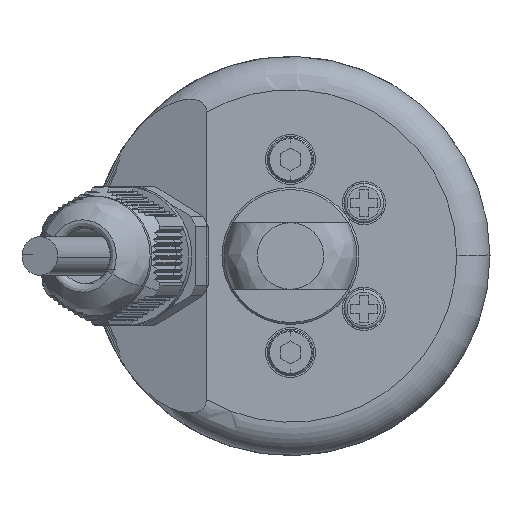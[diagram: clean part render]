
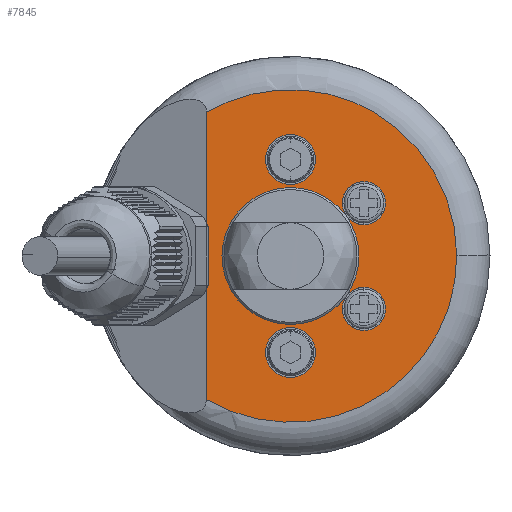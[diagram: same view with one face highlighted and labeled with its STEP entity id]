
A CAD part, left-side view. The second image highlights one B-rep face of the part: STEP entity #7845.
In plain terms, the highlighted planar face has unit normal (-1, 0, 0).
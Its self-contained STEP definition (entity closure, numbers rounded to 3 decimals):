
#1228=DIRECTION('',(0.,0.,-1.));
#1229=VECTOR('',#1228,16.615);
#1230=CARTESIAN_POINT('',(-643.,12.622,-4.965));
#1231=LINE('',#1230,#1229);
#1311=DIRECTION('',(0.,0.,-1.));
#1312=VECTOR('',#1311,16.615);
#1313=CARTESIAN_POINT('',(-643.,12.622,21.58));
#1314=LINE('',#1313,#1312);
#1354=CARTESIAN_POINT('',(-643.,0.,14.5));
#1355=DIRECTION('',(-1.,0.,0.));
#1356=DIRECTION('',(0.,0.,-1.));
#1357=AXIS2_PLACEMENT_3D('',#1354,#1355,#1356);
#1359=CARTESIAN_POINT('',(-643.,0.,14.5));
#1360=DIRECTION('',(-1.,0.,0.));
#1361=DIRECTION('',(0.,0.,1.));
#1362=AXIS2_PLACEMENT_3D('',#1359,#1360,#1361);
#1364=CARTESIAN_POINT('',(-643.,0.,-14.5));
#1365=DIRECTION('',(-1.,0.,0.));
#1366=DIRECTION('',(0.,0.,-1.));
#1367=AXIS2_PLACEMENT_3D('',#1364,#1365,#1366);
#1369=CARTESIAN_POINT('',(-643.,0.,-14.5));
#1370=DIRECTION('',(-1.,0.,0.));
#1371=DIRECTION('',(0.,0.,1.));
#1372=AXIS2_PLACEMENT_3D('',#1369,#1370,#1371);
#1374=CARTESIAN_POINT('',(-643.,0.,0.));
#1375=DIRECTION('',(-1.,0.,0.));
#1376=DIRECTION('',(0.,0.,1.));
#1377=AXIS2_PLACEMENT_3D('',#1374,#1375,#1376);
#1379=CARTESIAN_POINT('',(-643.,0.,0.));
#1380=DIRECTION('',(-1.,0.,0.));
#1381=DIRECTION('',(0.,1.,0.));
#1382=AXIS2_PLACEMENT_3D('',#1379,#1380,#1381);
#1384=CARTESIAN_POINT('',(-643.,0.,0.));
#1385=DIRECTION('',(-1.,0.,0.));
#1386=DIRECTION('',(0.,0.,-1.));
#1387=AXIS2_PLACEMENT_3D('',#1384,#1385,#1386);
#1389=CARTESIAN_POINT('',(-643.,-11.04,-7.95));
#1390=DIRECTION('',(-1.,0.,0.));
#1391=DIRECTION('',(0.,0.811,0.584));
#1392=AXIS2_PLACEMENT_3D('',#1389,#1390,#1391);
#1394=CARTESIAN_POINT('',(-643.,-11.04,-7.95));
#1395=DIRECTION('',(-1.,0.,0.));
#1396=DIRECTION('',(0.,0.,-1.));
#1397=AXIS2_PLACEMENT_3D('',#1394,#1395,#1396);
#1399=CARTESIAN_POINT('',(-643.,-11.04,-7.95));
#1400=DIRECTION('',(-1.,0.,0.));
#1401=DIRECTION('',(0.,0.,1.));
#1402=AXIS2_PLACEMENT_3D('',#1399,#1400,#1401);
#1404=CARTESIAN_POINT('',(-643.,0.,0.));
#1405=DIRECTION('',(-1.,0.,0.));
#1406=DIRECTION('',(0.,-0.811,-0.584));
#1407=AXIS2_PLACEMENT_3D('',#1404,#1405,#1406);
#1409=CARTESIAN_POINT('',(-643.,0.,0.));
#1410=DIRECTION('',(-1.,0.,0.));
#1411=DIRECTION('',(0.,-1.,0.));
#1412=AXIS2_PLACEMENT_3D('',#1409,#1410,#1411);
#1414=CARTESIAN_POINT('',(-643.,-11.04,7.95));
#1415=DIRECTION('',(-1.,0.,0.));
#1416=DIRECTION('',(0.,0.811,-0.584));
#1417=AXIS2_PLACEMENT_3D('',#1414,#1415,#1416);
#1419=CARTESIAN_POINT('',(-643.,-11.04,7.95));
#1420=DIRECTION('',(-1.,0.,0.));
#1421=DIRECTION('',(0.,0.,-1.));
#1422=AXIS2_PLACEMENT_3D('',#1419,#1420,#1421);
#1424=CARTESIAN_POINT('',(-643.,-11.04,7.95));
#1425=DIRECTION('',(-1.,0.,0.));
#1426=DIRECTION('',(0.,0.,1.));
#1427=AXIS2_PLACEMENT_3D('',#1424,#1425,#1426);
#1429=CARTESIAN_POINT('',(-643.,0.,0.));
#1430=DIRECTION('',(-1.,0.,0.));
#1431=DIRECTION('',(0.,-0.811,0.584));
#1432=AXIS2_PLACEMENT_3D('',#1429,#1430,#1431);
#1434=CARTESIAN_POINT('',(-643.,0.,0.));
#1435=DIRECTION('',(1.,0.,0.));
#1436=DIRECTION('',(0.,0.505,0.863));
#1437=AXIS2_PLACEMENT_3D('',#1434,#1435,#1436);
#1439=CARTESIAN_POINT('',(-643.,0.,0.));
#1440=DIRECTION('',(1.,0.,0.));
#1441=DIRECTION('',(0.,-0.505,0.863));
#1442=AXIS2_PLACEMENT_3D('',#1439,#1440,#1441);
#1444=CARTESIAN_POINT('',(-643.,0.,0.));
#1445=DIRECTION('',(1.,0.,0.));
#1446=DIRECTION('',(0.,-1.,0.005));
#1447=AXIS2_PLACEMENT_3D('',#1444,#1445,#1446);
#1449=DIRECTION('',(0.,0.,1.));
#1450=VECTOR('',#1449,9.93);
#1451=CARTESIAN_POINT('',(-643.,12.622,-4.965));
#1452=LINE('',#1451,#1450);
#4893=CARTESIAN_POINT('',(-643.,0.,-18.25));
#4894=VERTEX_POINT('',#4893);
#4895=CARTESIAN_POINT('',(-643.,0.,-10.75));
#4896=VERTEX_POINT('',#4895);
#4897=CARTESIAN_POINT('',(-643.,-25.,0.127));
#4898=CARTESIAN_POINT('',(-643.,12.622,-21.58));
#4899=VERTEX_POINT('',#4897);
#4900=VERTEX_POINT('',#4898);
#4901=CARTESIAN_POINT('',(-643.,12.622,21.58));
#4902=CARTESIAN_POINT('',(-643.,-12.622,21.58));
#4903=VERTEX_POINT('',#4901);
#4904=VERTEX_POINT('',#4902);
#4905=CARTESIAN_POINT('',(-643.,0.,10.75));
#4906=CARTESIAN_POINT('',(-643.,0.,18.25));
#4907=VERTEX_POINT('',#4905);
#4908=VERTEX_POINT('',#4906);
#4909=CARTESIAN_POINT('',(-643.,0.,10.3));
#4910=CARTESIAN_POINT('',(-643.,10.3,0.));
#4911=VERTEX_POINT('',#4909);
#4912=VERTEX_POINT('',#4910);
#4913=CARTESIAN_POINT('',(-643.,0.,-10.3));
#4914=VERTEX_POINT('',#4913);
#4915=CARTESIAN_POINT('',(-643.,-11.04,4.7));
#4916=CARTESIAN_POINT('',(-643.,-11.04,11.2));
#4917=VERTEX_POINT('',#4915);
#4918=VERTEX_POINT('',#4916);
#4919=CARTESIAN_POINT('',(-643.,-11.04,-11.2));
#4920=CARTESIAN_POINT('',(-643.,-11.04,-4.7));
#4921=VERTEX_POINT('',#4919);
#4922=VERTEX_POINT('',#4920);
#4978=CARTESIAN_POINT('',(-643.,-10.3,0.));
#4980=VERTEX_POINT('',#4978);
#6035=CARTESIAN_POINT('',(-643.,12.622,-4.965));
#6036=CARTESIAN_POINT('',(-643.,12.622,4.965));
#6037=VERTEX_POINT('',#6035);
#6038=VERTEX_POINT('',#6036);
#6080=CARTESIAN_POINT('',(-643.,-8.403,-6.051));
#6081=VERTEX_POINT('',#6080);
#6082=CARTESIAN_POINT('',(-643.,-8.403,6.051));
#6083=VERTEX_POINT('',#6082);
#7791=CARTESIAN_POINT('',(-643.,-6.189,0.));
#7792=DIRECTION('',(1.,0.,0.));
#7793=DIRECTION('',(0.,0.,1.));
#7794=AXIS2_PLACEMENT_3D('',#7791,#7792,#7793);
#7795=PLANE('',#7794);
#7796=ORIENTED_EDGE('',*,*,#7700,.F.);
#7798=ORIENTED_EDGE('',*,*,#7797,.T.);
#7800=ORIENTED_EDGE('',*,*,#7799,.T.);
#7802=ORIENTED_EDGE('',*,*,#7801,.T.);
#7803=ORIENTED_EDGE('',*,*,#7666,.F.);
#7804=ORIENTED_EDGE('',*,*,#7755,.T.);
#7805=EDGE_LOOP('',(#7796,#7798,#7800,#7802,#7803,#7804));
#7806=FACE_OUTER_BOUND('',#7805,.F.);
#7808=ORIENTED_EDGE('',*,*,#7807,.T.);
#7810=ORIENTED_EDGE('',*,*,#7809,.T.);
#7811=EDGE_LOOP('',(#7808,#7810));
#7812=FACE_BOUND('',#7811,.F.);
#7814=ORIENTED_EDGE('',*,*,#7813,.T.);
#7816=ORIENTED_EDGE('',*,*,#7815,.T.);
#7818=ORIENTED_EDGE('',*,*,#7817,.T.);
#7820=ORIENTED_EDGE('',*,*,#7819,.T.);
#7822=ORIENTED_EDGE('',*,*,#7821,.T.);
#7824=ORIENTED_EDGE('',*,*,#7823,.T.);
#7826=ORIENTED_EDGE('',*,*,#7825,.T.);
#7828=ORIENTED_EDGE('',*,*,#7827,.T.);
#7830=ORIENTED_EDGE('',*,*,#7829,.T.);
#7832=ORIENTED_EDGE('',*,*,#7831,.T.);
#7834=ORIENTED_EDGE('',*,*,#7833,.T.);
#7836=ORIENTED_EDGE('',*,*,#7835,.T.);
#7837=EDGE_LOOP('',(#7814,#7816,#7818,#7820,#7822,#7824,#7826,#7828,#7830,#7832,
#7834,#7836));
#7838=FACE_BOUND('',#7837,.F.);
#7840=ORIENTED_EDGE('',*,*,#7839,.T.);
#7842=ORIENTED_EDGE('',*,*,#7841,.T.);
#7843=EDGE_LOOP('',(#7840,#7842));
#7844=FACE_BOUND('',#7843,.F.);
#7845=ADVANCED_FACE('',(#7806,#7812,#7838,#7844),#7795,.F.);
#1358=CIRCLE('',#1357,3.75);
#1363=CIRCLE('',#1362,3.75);
#1368=CIRCLE('',#1367,3.75);
#1373=CIRCLE('',#1372,3.75);
#1378=CIRCLE('',#1377,10.3);
#1383=CIRCLE('',#1382,10.3);
#1388=CIRCLE('',#1387,10.3);
#1393=CIRCLE('',#1392,3.25);
#1398=CIRCLE('',#1397,3.25);
#1403=CIRCLE('',#1402,3.25);
#1408=CIRCLE('',#1407,10.3);
#1413=CIRCLE('',#1412,10.3);
#1418=CIRCLE('',#1417,3.25);
#1423=CIRCLE('',#1422,3.25);
#1428=CIRCLE('',#1427,3.25);
#1433=CIRCLE('',#1432,10.3);
#1438=CIRCLE('',#1437,25.);
#1443=CIRCLE('',#1442,25.);
#1448=CIRCLE('',#1447,25.);
#7666=EDGE_CURVE('',#6037,#4900,#1231,.T.);
#7700=EDGE_CURVE('',#4903,#6038,#1314,.T.);
#7755=EDGE_CURVE('',#6037,#6038,#1452,.T.);
#7797=EDGE_CURVE('',#4903,#4904,#1438,.T.);
#7799=EDGE_CURVE('',#4904,#4899,#1443,.T.);
#7801=EDGE_CURVE('',#4899,#4900,#1448,.T.);
#7807=EDGE_CURVE('',#4894,#4896,#1368,.T.);
#7809=EDGE_CURVE('',#4896,#4894,#1373,.T.);
#7813=EDGE_CURVE('',#4911,#4912,#1378,.T.);
#7815=EDGE_CURVE('',#4912,#4914,#1383,.T.);
#7817=EDGE_CURVE('',#4914,#6081,#1388,.T.);
#7819=EDGE_CURVE('',#6081,#4921,#1393,.T.);
#7821=EDGE_CURVE('',#4921,#4922,#1398,.T.);
#7823=EDGE_CURVE('',#4922,#6081,#1403,.T.);
#7825=EDGE_CURVE('',#6081,#4980,#1408,.T.);
#7827=EDGE_CURVE('',#4980,#6083,#1413,.T.);
#7829=EDGE_CURVE('',#6083,#4917,#1418,.T.);
#7831=EDGE_CURVE('',#4917,#4918,#1423,.T.);
#7833=EDGE_CURVE('',#4918,#6083,#1428,.T.);
#7835=EDGE_CURVE('',#6083,#4911,#1433,.T.);
#7839=EDGE_CURVE('',#4907,#4908,#1358,.T.);
#7841=EDGE_CURVE('',#4908,#4907,#1363,.T.);
